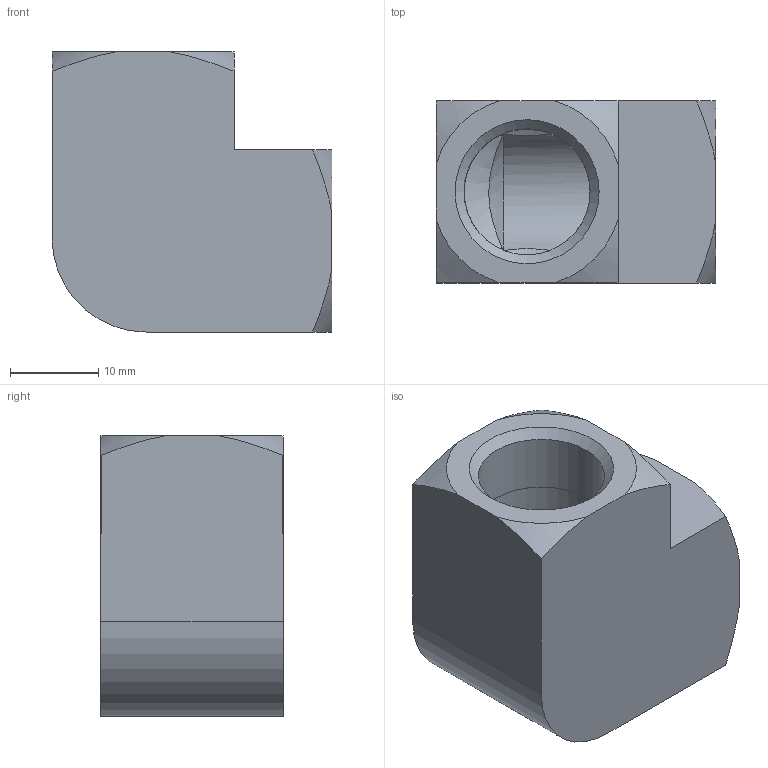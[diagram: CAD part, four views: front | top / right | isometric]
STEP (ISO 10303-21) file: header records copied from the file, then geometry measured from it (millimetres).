
FILE_DESCRIPTION(/* description */ (''),/* implementation_level */ '2;1');
FILE_NAME(/* name */ 'C:/Users/drich/Desktop/EL-38 v1.step',/* time_stamp */ '2020-02-09T11:06:03-06:00',/* author */ (''),/* organization */ (''),/* preprocessor_version */ 'ST-DEVELOPER v18',/* originating_system */ 'Autodesk Translation Framework v8.12.0.6',/* authorisation */ '');
FILE_SCHEMA (('AUTOMOTIVE_DESIGN { 1 0 10303 214 3 1 1 }'));
Length unit declared in the file: inch
Products named in the file (1): EL-38
Bounding box: 31.74 x 20.65 x 31.75 mm (x, y, z)
Volume: 10850.2 mm3; surface area: 5683.1 mm2
Topology: 1 solids, 1 shells, 38 faces, 100 edges, 66 vertices
Faces by surface type: cone 14, cylinder 12, plane 12
Full cylindrical faces by diameter (mm): 14.275 x2, 14.3 x2
Entity records: 1250 total; most frequent: CARTESIAN_POINT 276, ORIENTED_EDGE 200, DIRECTION 200, EDGE_CURVE 100, AXIS2_PLACEMENT_3D 82, VERTEX_POINT 66, EDGE_LOOP 42, FACE_OUTER_BOUND 38
